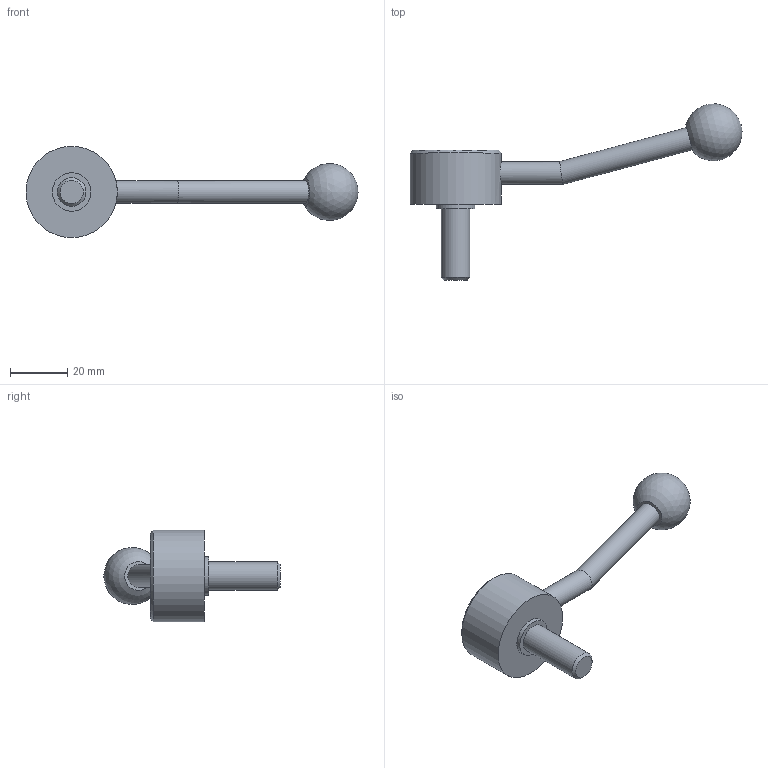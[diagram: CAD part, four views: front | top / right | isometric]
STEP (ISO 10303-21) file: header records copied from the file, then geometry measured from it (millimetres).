
FILE_DESCRIPTION( ( 'STEP AP203' ), '1' );
FILE_NAME( 'C:/Temp/Ganter_Step_05_03_2020/data/2_1/gn_125/gn_125_ms/gn_125_ms_e/Flat Adjustable Lever GN 125-32-M10-25-E.stp', '2020-03-05T11:00:55', ( 'License CC BY-ND 4.0' ), ( 'CADENAS' ), ' ', 'PARTsolutions', ' ' );
FILE_SCHEMA( ( 'CONFIG_CONTROL_DESIGN' ) );
Length unit declared in the file: millimetre
Products named in the file (1): _Flat Adjustable Lever GN 125-32-M10-25-E
Bounding box: 116.34 x 61.72 x 32 mm (x, y, z)
Volume: 24838.9 mm3; surface area: 7161.5 mm2
Topology: 1 solids, 1 shells, 15 faces, 26 edges, 17 vertices
Faces by surface type: cylinder 6, plane 6, cone 2, sphere 1
Full cylindrical faces by diameter (mm): 8 x2, 10 x1, 13.5 x1, 22 x1, 32 x1
Entity records: 404 total; most frequent: CARTESIAN_POINT 110, DIRECTION 58, AXIS2_PLACEMENT_3D 29, EDGE_LOOP 28, ORIENTED_EDGE 28, FACE_OUTER_BOUND 21, ADVANCED_FACE 15, VERTEX_POINT 15
